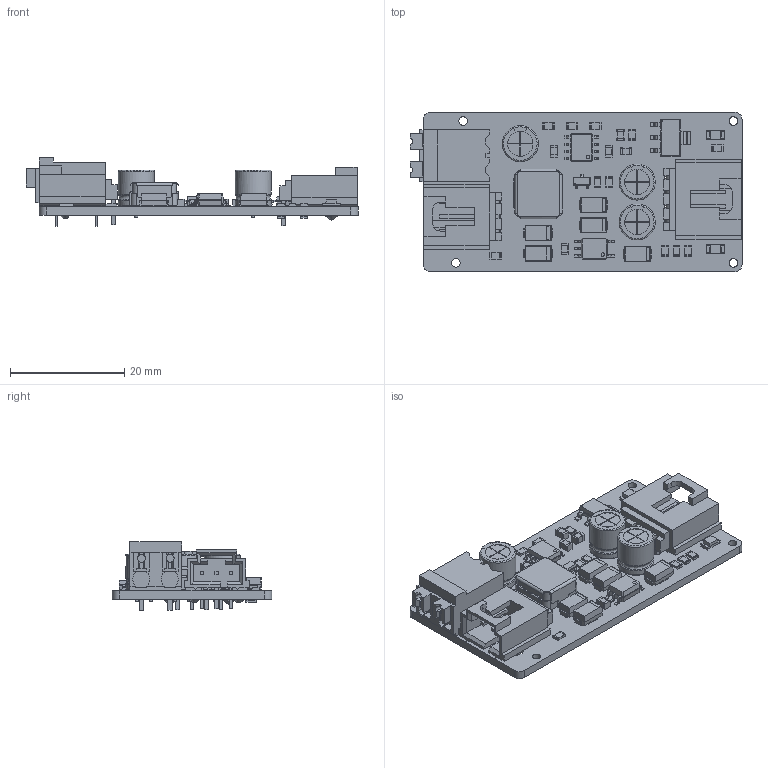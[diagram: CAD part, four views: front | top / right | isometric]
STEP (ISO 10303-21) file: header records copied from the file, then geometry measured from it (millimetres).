
FILE_DESCRIPTION(('KiCad electronic assembly'),'2;1');
FILE_NAME('BeamBreak-v1.step','2026-02-22T09:23:36',('Pcbnew'),('Kicad') ,'Open CASCADE STEP processor 7.6','KiCad to STEP converter','Unknown' );
FILE_SCHEMA(('AUTOMOTIVE_DESIGN { 1 0 10303 214 1 1 1 1 }'));
Length unit declared in the file: millimetre
Products named in the file (19): BeamBreak-v1 1; R_0805_2012Metric; D_SMA; VishayDale-IHLE3232DDER330M5A; CP_Radial_D6.3mm_P2.50mm; SOIC-8_3.9x4.9mm_P1.27mm; Molex-705550003; SOLID; COMPOUND; SOT-223; Weidmuller-1824740000; C_0805_2012Metric; LED_1206_3216Metric; Molex-705550002; SO-5-6_4.55x3.7mm_P1.27mm; SOT-23-3; BeamBreak-v1_PCB
Assembly tree (41 placements, depth 3):
  BeamBreak-v1 1
    R_0805_2012Metric  x13
    D_SMA  x5
    VishayDale-IHLE3232DDER330M5A
    CP_Radial_D6.3mm_P2.50mm  x3
    SOIC-8_3.9x4.9mm_P1.27mm
    Molex-705550003
      SOLID
      COMPOUND
    SOT-223
    Weidmuller-1824740000
    C_0805_2012Metric  x5
    LED_1206_3216Metric  x2
    Molex-705550002
      SOLID
      COMPOUND
    SO-5-6_4.55x3.7mm_P1.27mm
    SOT-23-3
    BeamBreak-v1_PCB
Bounding box: 58.21 x 27.94 x 12 mm (x, y, z)
Volume: 5128.9 mm3; surface area: 7982.3 mm2
Topology: 43 solids, 46 shells, 2032 faces, 5369 edges, 3482 vertices
Faces by surface type: plane 1441, cylinder 427, bspline 138, revolution 12, cone 8, torus 6
Full cylindrical faces by diameter (mm): 0.5 x6, 0.8 x6, 1.067 x3, 1.092 x4, 1.1 x4, 1.5 x5, 3.4 x4
Entity records: 41675 total; most frequent: CARTESIAN_POINT 9078, ORIENTED_EDGE 6905, DIRECTION 6261, EDGE_CURVE 3454, LINE 2699, VECTOR 2699, VERTEX_POINT 2204, AXIS2_PLACEMENT_3D 1779
